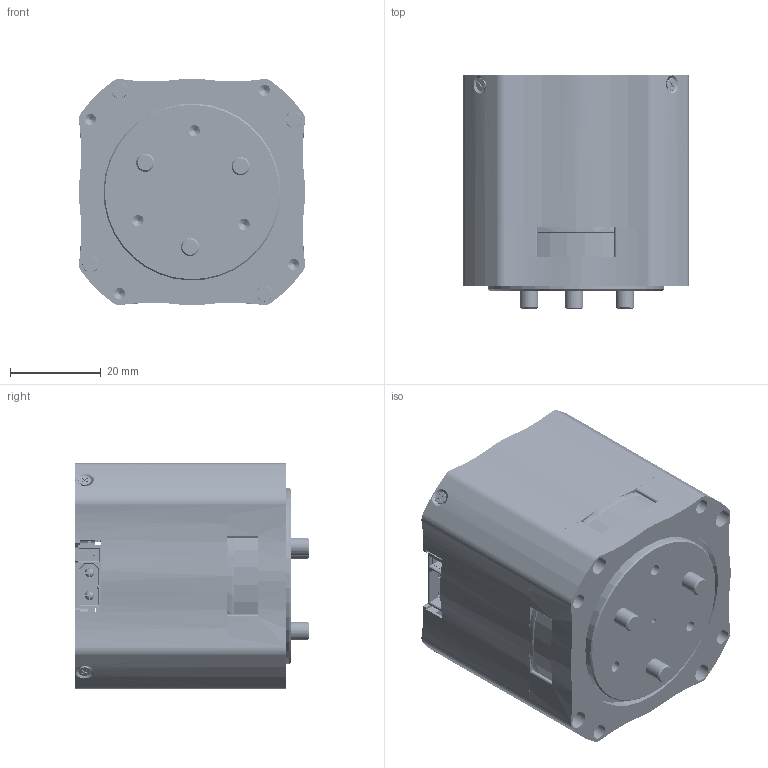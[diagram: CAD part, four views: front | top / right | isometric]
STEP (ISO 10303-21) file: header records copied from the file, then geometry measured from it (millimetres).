
FILE_DESCRIPTION (( 'STEP AP203' ), '1' );
FILE_NAME ('5047-0626 -¼ò»¯.STEP', '2024-07-26T03:11:02', ( 'China' ), ( 'Microsoft' ), 'SwSTEP 2.0', 'SolidWorks 2022', '' );
FILE_SCHEMA (( 'CONFIG_CONTROL_DESIGN' ));
Length unit declared in the file: millimetre
Products named in the file (11): 内齿5048A; 轴承座5047; 沉头十字_M2锁电板螺丝1_D_k=2.6mm,L=3mm; 输出盘5047; 销4-7; 3D_双编-5047（功率升级）_2024-04-16; 电机盖5047端子版0718; 5047-0626 -简化; 5047外壳端子版; 内六角圆柱头螺钉_3.5头_M2.5×8; 5047-35-44-5橡胶密封型-6707 2rs
Assembly tree (18 placements, depth 2):
  5047-0626 -简化
    5047外壳端子版
    轴承座5047
    内齿5048A
    5047-35-44-5橡胶密封型-6707 2rs
    输出盘5047
    电机盖5047端子版0718
    3D_双编-5047（功率升级）_2024-04-16
    沉头十字_M2锁电板螺丝1_D_k=2.6mm,L=3mm  x4
    内六角圆柱头螺钉_3.5头_M2.5×8  x4
    销4-7  x3
Bounding box: 49.9 x 51.5 x 49.9 mm (x, y, z)
Volume: 47708.7 mm3; surface area: 50158.9 mm2
Topology: 100 solids, 100 shells, 11963 faces, 31307 edges, 20006 vertices
Faces by surface type: plane 6310, bspline 3010, cylinder 1880, sphere 322, torus 270, cone 171
Entity records: 397229 total; most frequent: CARTESIAN_POINT 124877, ORIENTED_EDGE 61422, DIRECTION 46261, EDGE_CURVE 30711, VECTOR 20203, LINE 20203, VERTEX_POINT 19780, AXIS2_PLACEMENT_3D 13029
